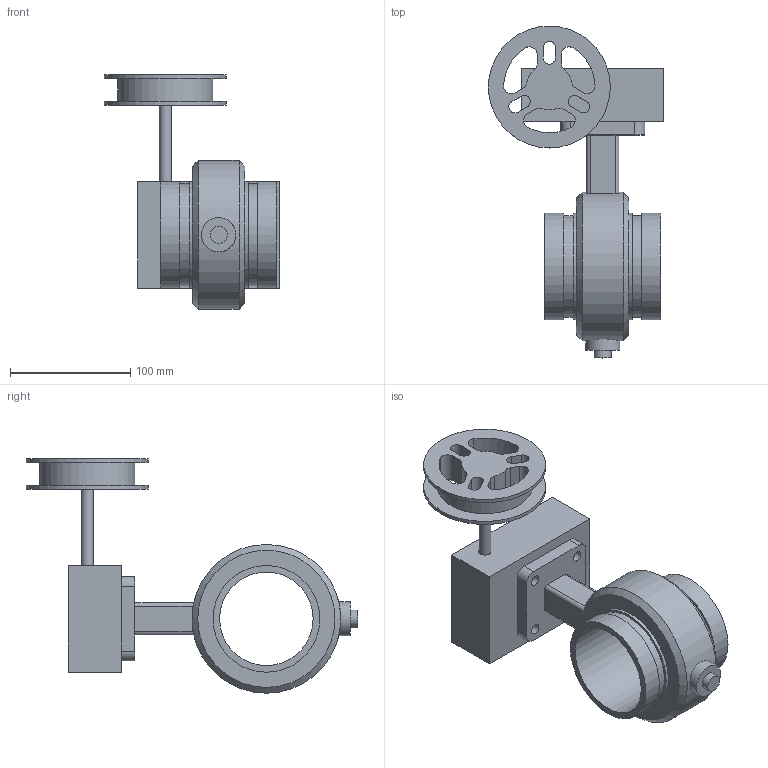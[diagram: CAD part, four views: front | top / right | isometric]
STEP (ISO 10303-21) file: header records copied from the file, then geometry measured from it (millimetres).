
FILE_DESCRIPTION(/* description */ ('VIC SS BUTTERFLY VALVE GO CW SERIES 250-S (OGS)'),/* implementation_level */ '2;1');
FILE_NAME(/* name */ 'C:\Files for Export\250-S\Victaulic_SS_Vlv Btfl GO CW_Series 250-S (OGS)\Victaulic_SS_Vlv Btfl GO CW_Series 250-S (OGS)_3 (80).stp',/* time_stamp */ '2024-10-14T13:12:34+02:00',/* author */ ('cps_temp'),/* organization */ ('Victaulic'),/* preprocessor_version */ 'ST-DEVELOPER v18.1',/* originating_system */ 'Autodesk Inventor 2020',/* authorisation */ '');
FILE_SCHEMA (('AUTOMOTIVE_DESIGN { 1 0 10303 214 3 1 1 }'));
Length unit declared in the file: inch
Products named in the file (1): 250-S4-03.0
Bounding box: 146.05 x 276.35 x 195.33 mm (x, y, z)
Volume: 1015232.9 mm3; surface area: 160937.6 mm2
Topology: 1 solids, 2 shells, 101 faces, 258 edges, 179 vertices
Faces by surface type: cylinder 52, plane 47, cone 2
Full cylindrical faces by diameter (mm): 8.636 x4, 10.16 x1, 14.224 x2, 28.575 x1, 55.118 x1, 77.927 x1, 79.375 x1, 84.938 x2, 88.9 x4, 101.6 x2, 123.952 x1
Entity records: 3411 total; most frequent: CARTESIAN_POINT 626, DIRECTION 581, ORIENTED_EDGE 516, EDGE_CURVE 258, AXIS2_PLACEMENT_3D 228, VERTEX_POINT 179, EDGE_LOOP 135, CIRCLE 126
